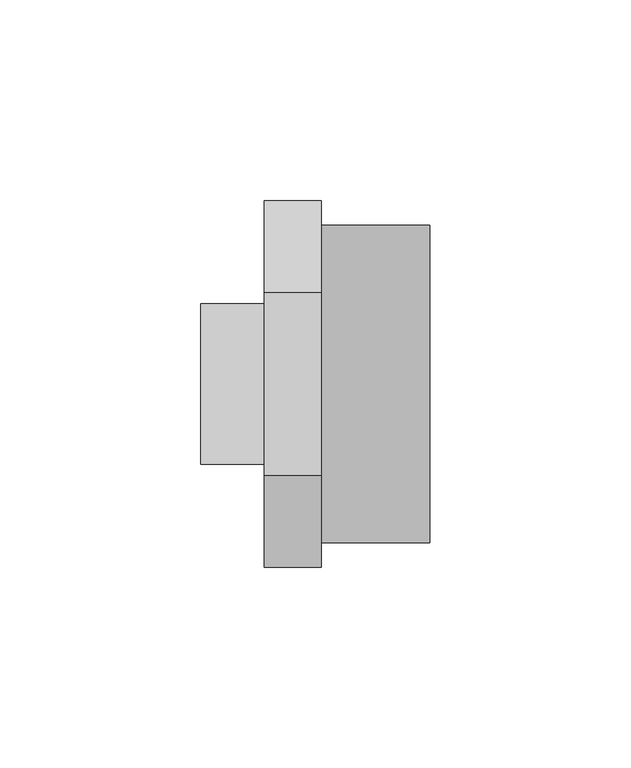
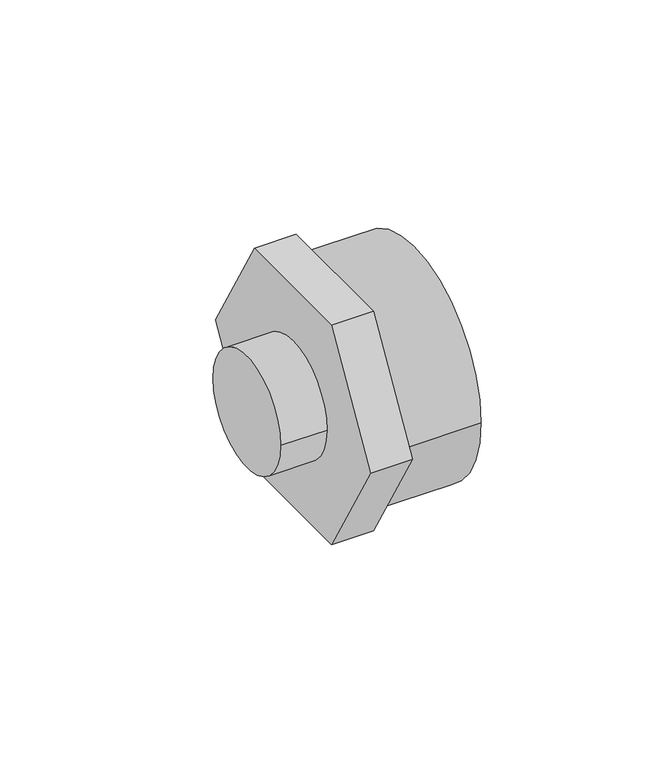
"""IFC4 building model written with IfcOpenShell, lengths in millimetres: pipe fitting geometry, 01011006 : Mamelons de réductio MxF."""

from ifc_helpers import new_model, si_unit, point, frame, origin, origin_2d, place, context, project, spatial, polyline, circle_curve, trimmed, segment, composite_curve, outline, extrude, source, transform, mapped, element, save


def pipe_fitting_9b8ade33(model_context):
    return source(origin(), model_context, "Body", "SweptSolid", [
        extrude(outline(composite_curve([segment(trimmed(circle_curve(origin_2d(), 20.0), [point((20.0, 0.0))], [point((-20.0, 0.0))], False, "CARTESIAN"), True, "CONTINUOUS"), segment(trimmed(circle_curve(origin_2d(), 20.0), [point((-20.0, 0.0))], [point((20.0, 0.0))], False, "CARTESIAN"), True, "CONTINUOUS")], self_intersect=False)), frame((0.0, 0.0, 0.0), z_axis=(1.0, 0.0, 0.0), x_axis=(0.0, 1.0, 0.0)), (0.0, 0.0, 1.0), 15.75),
        extrude(outline(polyline([(-22.8053356, 39.5), (22.8053356, 39.5), (45.6106713, 0.0), (22.8053356, -39.5), (-22.8053356, -39.5), (-45.6106713, 0.0), (-22.8053356, 39.5)])), frame((15.75, 0.0, 0.0), z_axis=(1.0, 0.0, 0.0), x_axis=(0.0, 1.0, 0.0)), (0.0, 0.0, 1.0), 14.25),
        extrude(outline(composite_curve([segment(trimmed(circle_curve(origin_2d(), 39.5), [point((-39.5, 0.0))], [point((39.5, 0.0))], False, "CARTESIAN"), True, "CONTINUOUS"), segment(trimmed(circle_curve(origin_2d(), 39.5), [point((39.5, 0.0))], [point((-39.5, 0.0))], False, "CARTESIAN"), True, "CONTINUOUS")], self_intersect=False)), frame((30.0, 0.0, 0.0), z_axis=(1.0, 0.0, 0.0), x_axis=(0.0, 1.0, 0.0)), (0.0, 0.0, 1.0), 27.0),
    ])


if __name__ == "__main__":
    model = new_model("IFC4")
    model_context = context("Model", 3, world=origin())
    ifc_project = project(units=[si_unit("LENGTHUNIT", "METRE", prefix="MILLI")], contexts=[model_context])
    site = spatial("IfcSite", under=ifc_project)
    building = spatial("IfcBuilding", under=site)
    placement = place(None, origin())
    pipe_fitting_shape = pipe_fitting_9b8ade33(model_context)
    element("IfcPipeFitting", 1, ObjectType="01011006 : Mamelons de réductio MxF", at=placement, inside=building, context=model_context, shape_type="MappedRepresentation", body=[
        mapped(pipe_fitting_shape, transform((0.0, 0.0, 0.0), x_axis=(1.0, 0.0, 0.0), y_axis=(0.0, 1.0, 0.0), z_axis=(0.0, 0.0, 1.0))),
    ])
    save(model, "model.ifc")
